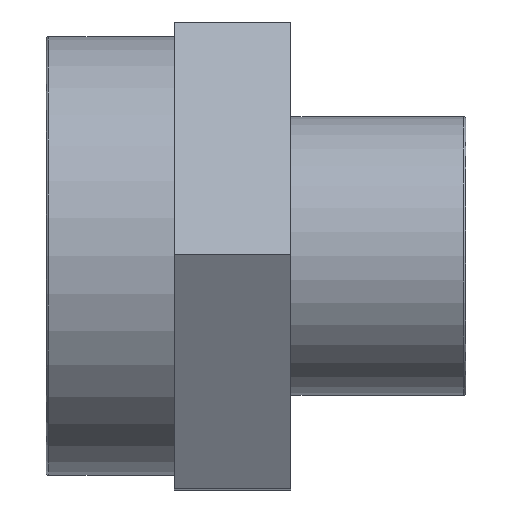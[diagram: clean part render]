
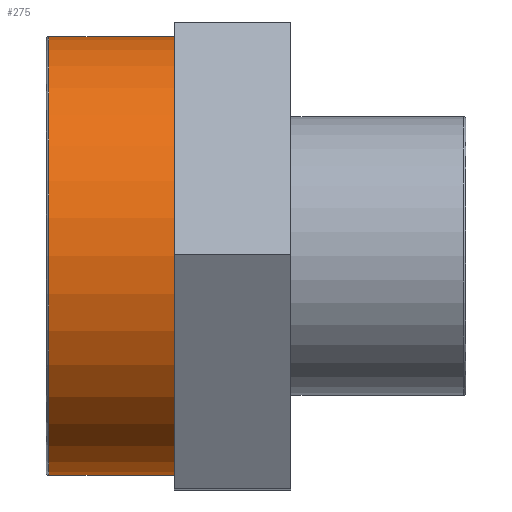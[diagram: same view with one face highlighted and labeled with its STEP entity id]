
A CAD part, top view. The second image highlights one B-rep face of the part: STEP entity #275.
In plain terms, the highlighted cylindrical face has radius 37.592 mm (diameter 75.184 mm), a full revolution.
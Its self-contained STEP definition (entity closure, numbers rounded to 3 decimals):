
#18=CYLINDRICAL_SURFACE('',#307,37.592);
#28=FACE_BOUND('',#92,.T.);
#42=CIRCLE('',#306,37.592);
#43=CIRCLE('',#308,37.592);
#63=FACE_OUTER_BOUND('',#91,.T.);
#91=EDGE_LOOP('',(#231));
#92=EDGE_LOOP('',(#232));
#157=VERTEX_POINT('',#460);
#158=VERTEX_POINT('',#463);
#187=EDGE_CURVE('',#157,#157,#42,.T.);
#188=EDGE_CURVE('',#158,#158,#43,.T.);
#231=ORIENTED_EDGE('',*,*,#188,.T.);
#232=ORIENTED_EDGE('',*,*,#187,.F.);
#275=ADVANCED_FACE('',(#63,#28),#18,.T.);
#306=AXIS2_PLACEMENT_3D('',#461,#382,#383);
#307=AXIS2_PLACEMENT_3D('',#462,#384,#385);
#308=AXIS2_PLACEMENT_3D('',#464,#386,#387);
#382=DIRECTION('center_axis',(-1.,0.,0.));
#383=DIRECTION('ref_axis',(0.,1.,0.));
#384=DIRECTION('center_axis',(-1.,0.,0.));
#385=DIRECTION('ref_axis',(0.,-1.,0.));
#386=DIRECTION('center_axis',(-1.,0.,0.));
#387=DIRECTION('ref_axis',(0.,0.,1.));
#460=CARTESIAN_POINT('',(-35.522,-37.592,0.));
#461=CARTESIAN_POINT('Origin',(-35.522,0.,0.));
#462=CARTESIAN_POINT('Origin',(-25.,0.,0.));
#463=CARTESIAN_POINT('',(-14.,-37.592,0.));
#464=CARTESIAN_POINT('Origin',(-14.,0.,0.));
